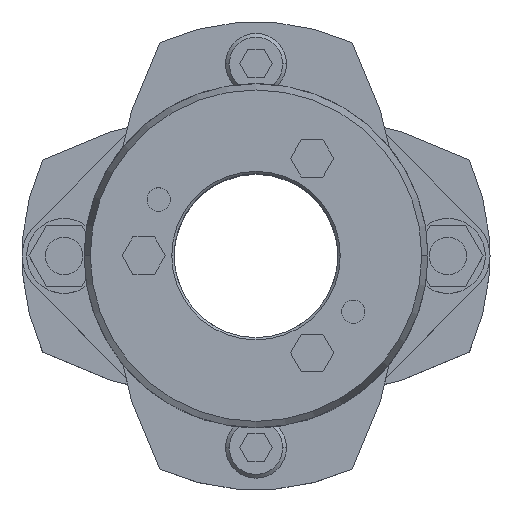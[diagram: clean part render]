
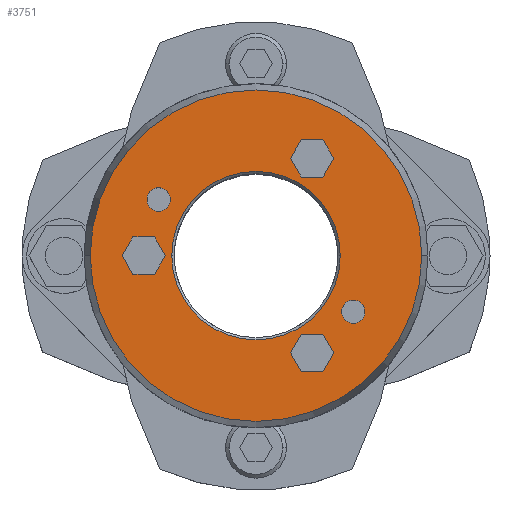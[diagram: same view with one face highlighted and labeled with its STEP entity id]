
A CAD part, top view. The second image highlights one B-rep face of the part: STEP entity #3751.
In plain terms, the highlighted planar face has unit normal (0, 0, 1).
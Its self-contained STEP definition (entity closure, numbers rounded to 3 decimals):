
#1505=CARTESIAN_POINT('',(-18.,0.,42.0));
#1506=VERTEX_POINT('',#1505);
#1522=CARTESIAN_POINT('',(18.,0.,42.0));
#1523=VERTEX_POINT('',#1522);
#1530=CARTESIAN_POINT('',(0.,0.,42.0));
#1531=DIRECTION('',(0.0,0.0,1.0));
#1532=DIRECTION('',(-1.0,0.0,0.0));
#1533=AXIS2_PLACEMENT_3D('',#1530,#1531,#1532);
#1534=CIRCLE('',#1533,18.0);
#1535=EDGE_CURVE('',#1523,#1506,#1534,.T.);
#1651=CARTESIAN_POINT('',(35.41,0.,42.0));
#1652=VERTEX_POINT('',#1651);
#1661=CARTESIAN_POINT('',(-35.41,0.,42.0));
#1662=VERTEX_POINT('',#1661);
#1663=CARTESIAN_POINT('',(0.,0.,42.0));
#1664=DIRECTION('',(0.0,0.0,-1.0));
#1665=DIRECTION('',(1.0,0.0,0.0));
#1666=AXIS2_PLACEMENT_3D('',#1663,#1664,#1665);
#1667=CIRCLE('',#1666,35.41);
#1668=EDGE_CURVE('',#1652,#1662,#1667,.T.);
#1837=CARTESIAN_POINT('',(18.285,-12.,42.0));
#1838=VERTEX_POINT('',#1837);
#1854=CARTESIAN_POINT('',(23.285,-12.,42.0));
#1855=VERTEX_POINT('',#1854);
#1862=CARTESIAN_POINT('',(20.785,-12.,42.0));
#1863=DIRECTION('',(0.0,0.0,-1.0));
#1864=DIRECTION('',(-1.0,0.0,0.0));
#1865=AXIS2_PLACEMENT_3D('',#1862,#1863,#1864);
#1866=CIRCLE('',#1865,2.5);
#1867=EDGE_CURVE('',#1838,#1855,#1866,.T.);
#1879=CARTESIAN_POINT('',(-23.285,12.,42.0));
#1880=VERTEX_POINT('',#1879);
#1896=CARTESIAN_POINT('',(-18.285,12.,42.0));
#1897=VERTEX_POINT('',#1896);
#1904=CARTESIAN_POINT('',(-20.785,12.,42.0));
#1905=DIRECTION('',(0.0,0.0,-1.0));
#1906=DIRECTION('',(-1.0,0.0,0.0));
#1907=AXIS2_PLACEMENT_3D('',#1904,#1905,#1906);
#1908=CIRCLE('',#1907,2.5);
#1909=EDGE_CURVE('',#1880,#1897,#1908,.T.);
#2660=CARTESIAN_POINT('',(-20.785,12.,42.0));
#2661=DIRECTION('',(0.0,0.0,-1.0));
#2662=DIRECTION('',(-1.0,0.0,0.0));
#2663=AXIS2_PLACEMENT_3D('',#2660,#2661,#2662);
#2664=CIRCLE('',#2663,2.5);
#2665=EDGE_CURVE('',#1897,#1880,#2664,.T.);
#2694=CARTESIAN_POINT('',(20.785,-12.,42.0));
#2695=DIRECTION('',(0.0,0.0,-1.0));
#2696=DIRECTION('',(-1.0,0.0,0.0));
#2697=AXIS2_PLACEMENT_3D('',#2694,#2695,#2696);
#2698=CIRCLE('',#2697,2.5);
#2699=EDGE_CURVE('',#1855,#1838,#2698,.T.);
#2737=CARTESIAN_POINT('',(7.381,20.785,42.0));
#2738=VERTEX_POINT('',#2737);
#2745=CARTESIAN_POINT('',(9.691,16.785,42.0));
#2746=VERTEX_POINT('',#2745);
#2747=CARTESIAN_POINT('',(9.691,16.785,42.0));
#2748=DIRECTION('',(-0.5,0.866,0.0));
#2749=VECTOR('',#2748,4.619);
#2750=LINE('',#2747,#2749);
#2751=EDGE_CURVE('',#2746,#2738,#2750,.T.);
#2775=CARTESIAN_POINT('',(9.691,24.785,42.0));
#2776=VERTEX_POINT('',#2775);
#2783=CARTESIAN_POINT('',(7.381,20.785,42.0));
#2784=DIRECTION('',(0.5,0.866,0.0));
#2785=VECTOR('',#2784,4.619);
#2786=LINE('',#2783,#2785);
#2787=EDGE_CURVE('',#2738,#2776,#2786,.T.);
#2806=CARTESIAN_POINT('',(14.309,24.785,42.0));
#2807=VERTEX_POINT('',#2806);
#2814=CARTESIAN_POINT('',(9.691,24.785,42.0));
#2815=DIRECTION('',(1.0,0.0,0.0));
#2816=VECTOR('',#2815,4.619);
#2817=LINE('',#2814,#2816);
#2818=EDGE_CURVE('',#2776,#2807,#2817,.T.);
#2837=CARTESIAN_POINT('',(16.619,20.785,42.0));
#2838=VERTEX_POINT('',#2837);
#2845=CARTESIAN_POINT('',(14.309,24.785,42.0));
#2846=DIRECTION('',(0.5,-0.866,0.0));
#2847=VECTOR('',#2846,4.619);
#2848=LINE('',#2845,#2847);
#2849=EDGE_CURVE('',#2807,#2838,#2848,.T.);
#2868=CARTESIAN_POINT('',(14.309,16.785,42.0));
#2869=VERTEX_POINT('',#2868);
#2876=CARTESIAN_POINT('',(16.619,20.785,42.0));
#2877=DIRECTION('',(-0.5,-0.866,0.0));
#2878=VECTOR('',#2877,4.619);
#2879=LINE('',#2876,#2878);
#2880=EDGE_CURVE('',#2838,#2869,#2879,.T.);
#2898=CARTESIAN_POINT('',(14.309,16.785,42.0));
#2899=DIRECTION('',(-1.0,0.0,0.0));
#2900=VECTOR('',#2899,4.619);
#2901=LINE('',#2898,#2900);
#2902=EDGE_CURVE('',#2869,#2746,#2901,.T.);
#2937=CARTESIAN_POINT('',(-28.619,0.,42.0));
#2938=VERTEX_POINT('',#2937);
#2945=CARTESIAN_POINT('',(-26.309,-4.,42.0));
#2946=VERTEX_POINT('',#2945);
#2947=CARTESIAN_POINT('',(-26.309,-4.,42.0));
#2948=DIRECTION('',(-0.5,0.866,0.0));
#2949=VECTOR('',#2948,4.619);
#2950=LINE('',#2947,#2949);
#2951=EDGE_CURVE('',#2946,#2938,#2950,.T.);
#2975=CARTESIAN_POINT('',(-26.309,4.,42.0));
#2976=VERTEX_POINT('',#2975);
#2983=CARTESIAN_POINT('',(-28.619,0.,42.0));
#2984=DIRECTION('',(0.5,0.866,0.0));
#2985=VECTOR('',#2984,4.619);
#2986=LINE('',#2983,#2985);
#2987=EDGE_CURVE('',#2938,#2976,#2986,.T.);
#3006=CARTESIAN_POINT('',(-21.691,4.,42.0));
#3007=VERTEX_POINT('',#3006);
#3014=CARTESIAN_POINT('',(-26.309,4.,42.0));
#3015=DIRECTION('',(1.0,0.0,0.0));
#3016=VECTOR('',#3015,4.619);
#3017=LINE('',#3014,#3016);
#3018=EDGE_CURVE('',#2976,#3007,#3017,.T.);
#3037=CARTESIAN_POINT('',(-19.381,0.,42.0));
#3038=VERTEX_POINT('',#3037);
#3045=CARTESIAN_POINT('',(-21.691,4.,42.0));
#3046=DIRECTION('',(0.5,-0.866,0.0));
#3047=VECTOR('',#3046,4.619);
#3048=LINE('',#3045,#3047);
#3049=EDGE_CURVE('',#3007,#3038,#3048,.T.);
#3068=CARTESIAN_POINT('',(-21.691,-4.,42.0));
#3069=VERTEX_POINT('',#3068);
#3076=CARTESIAN_POINT('',(-19.381,0.,42.0));
#3077=DIRECTION('',(-0.5,-0.866,0.0));
#3078=VECTOR('',#3077,4.619);
#3079=LINE('',#3076,#3078);
#3080=EDGE_CURVE('',#3038,#3069,#3079,.T.);
#3098=CARTESIAN_POINT('',(-21.691,-4.,42.0));
#3099=DIRECTION('',(-1.0,0.0,0.0));
#3100=VECTOR('',#3099,4.619);
#3101=LINE('',#3098,#3100);
#3102=EDGE_CURVE('',#3069,#2946,#3101,.T.);
#3137=CARTESIAN_POINT('',(7.381,-20.785,42.0));
#3138=VERTEX_POINT('',#3137);
#3145=CARTESIAN_POINT('',(9.691,-24.785,42.0));
#3146=VERTEX_POINT('',#3145);
#3147=CARTESIAN_POINT('',(9.691,-24.785,42.0));
#3148=DIRECTION('',(-0.5,0.866,0.0));
#3149=VECTOR('',#3148,4.619);
#3150=LINE('',#3147,#3149);
#3151=EDGE_CURVE('',#3146,#3138,#3150,.T.);
#3175=CARTESIAN_POINT('',(9.691,-16.785,42.0));
#3176=VERTEX_POINT('',#3175);
#3183=CARTESIAN_POINT('',(7.381,-20.785,42.0));
#3184=DIRECTION('',(0.5,0.866,0.0));
#3185=VECTOR('',#3184,4.619);
#3186=LINE('',#3183,#3185);
#3187=EDGE_CURVE('',#3138,#3176,#3186,.T.);
#3206=CARTESIAN_POINT('',(14.309,-16.785,42.0));
#3207=VERTEX_POINT('',#3206);
#3214=CARTESIAN_POINT('',(9.691,-16.785,42.0));
#3215=DIRECTION('',(1.0,0.0,0.0));
#3216=VECTOR('',#3215,4.619);
#3217=LINE('',#3214,#3216);
#3218=EDGE_CURVE('',#3176,#3207,#3217,.T.);
#3237=CARTESIAN_POINT('',(16.619,-20.785,42.0));
#3238=VERTEX_POINT('',#3237);
#3245=CARTESIAN_POINT('',(14.309,-16.785,42.0));
#3246=DIRECTION('',(0.5,-0.866,0.0));
#3247=VECTOR('',#3246,4.619);
#3248=LINE('',#3245,#3247);
#3249=EDGE_CURVE('',#3207,#3238,#3248,.T.);
#3268=CARTESIAN_POINT('',(14.309,-24.785,42.0));
#3269=VERTEX_POINT('',#3268);
#3276=CARTESIAN_POINT('',(16.619,-20.785,42.0));
#3277=DIRECTION('',(-0.5,-0.866,0.0));
#3278=VECTOR('',#3277,4.619);
#3279=LINE('',#3276,#3278);
#3280=EDGE_CURVE('',#3238,#3269,#3279,.T.);
#3298=CARTESIAN_POINT('',(14.309,-24.785,42.0));
#3299=DIRECTION('',(-1.0,0.0,0.0));
#3300=VECTOR('',#3299,4.619);
#3301=LINE('',#3298,#3300);
#3302=EDGE_CURVE('',#3269,#3146,#3301,.T.);
#3690=CARTESIAN_POINT('',(0.,0.,42.0));
#3691=DIRECTION('',(0.0,0.0,-1.0));
#3692=DIRECTION('',(1.0,0.0,0.0));
#3693=AXIS2_PLACEMENT_3D('',#3690,#3691,#3692);
#3694=CIRCLE('',#3693,35.41);
#3695=EDGE_CURVE('',#1662,#1652,#3694,.T.);
#3700=CARTESIAN_POINT('',(-3.114,0.,42.0));
#3701=DIRECTION('',(0.0,0.0,1.0));
#3702=DIRECTION('',(-1.0,0.0,0.0));
#3703=AXIS2_PLACEMENT_3D('',#3700,#3701,#3702);
#3704=PLANE('',#3703);
#3705=ORIENTED_EDGE('',*,*,#3695,.F.);
#3706=ORIENTED_EDGE('',*,*,#1668,.F.);
#3707=EDGE_LOOP('',(#3705,#3706));
#3708=FACE_OUTER_BOUND('',#3707,.T.);
#3709=ORIENTED_EDGE('',*,*,#1909,.T.);
#3710=ORIENTED_EDGE('',*,*,#2665,.T.);
#3711=EDGE_LOOP('',(#3709,#3710));
#3712=FACE_BOUND('',#3711,.T.);
#3713=ORIENTED_EDGE('',*,*,#1867,.T.);
#3714=ORIENTED_EDGE('',*,*,#2699,.T.);
#3715=EDGE_LOOP('',(#3713,#3714));
#3716=FACE_BOUND('',#3715,.T.);
#3717=ORIENTED_EDGE('',*,*,#2751,.T.);
#3718=ORIENTED_EDGE('',*,*,#2787,.T.);
#3719=ORIENTED_EDGE('',*,*,#2818,.T.);
#3720=ORIENTED_EDGE('',*,*,#2849,.T.);
#3721=ORIENTED_EDGE('',*,*,#2880,.T.);
#3722=ORIENTED_EDGE('',*,*,#2902,.T.);
#3723=EDGE_LOOP('',(#3717,#3718,#3719,#3720,#3721,#3722));
#3724=FACE_BOUND('',#3723,.T.);
#3725=ORIENTED_EDGE('',*,*,#2951,.T.);
#3726=ORIENTED_EDGE('',*,*,#2987,.T.);
#3727=ORIENTED_EDGE('',*,*,#3018,.T.);
#3728=ORIENTED_EDGE('',*,*,#3049,.T.);
#3729=ORIENTED_EDGE('',*,*,#3080,.T.);
#3730=ORIENTED_EDGE('',*,*,#3102,.T.);
#3731=EDGE_LOOP('',(#3725,#3726,#3727,#3728,#3729,#3730));
#3732=FACE_BOUND('',#3731,.T.);
#3733=ORIENTED_EDGE('',*,*,#3151,.T.);
#3734=ORIENTED_EDGE('',*,*,#3187,.T.);
#3735=ORIENTED_EDGE('',*,*,#3218,.T.);
#3736=ORIENTED_EDGE('',*,*,#3249,.T.);
#3737=ORIENTED_EDGE('',*,*,#3280,.T.);
#3738=ORIENTED_EDGE('',*,*,#3302,.T.);
#3739=EDGE_LOOP('',(#3733,#3734,#3735,#3736,#3737,#3738));
#3740=FACE_BOUND('',#3739,.T.);
#3741=ORIENTED_EDGE('',*,*,#1535,.F.);
#3742=CARTESIAN_POINT('',(0.,0.,42.0));
#3743=DIRECTION('',(0.0,0.0,1.0));
#3744=DIRECTION('',(-1.0,0.0,0.0));
#3745=AXIS2_PLACEMENT_3D('',#3742,#3743,#3744);
#3746=CIRCLE('',#3745,18.0);
#3747=EDGE_CURVE('',#1506,#1523,#3746,.T.);
#3748=ORIENTED_EDGE('',*,*,#3747,.F.);
#3749=EDGE_LOOP('',(#3741,#3748));
#3750=FACE_BOUND('',#3749,.T.);
#3751=ADVANCED_FACE('',(#3708,#3712,#3716,#3724,#3732,#3740,#3750),#3704,.T.);
